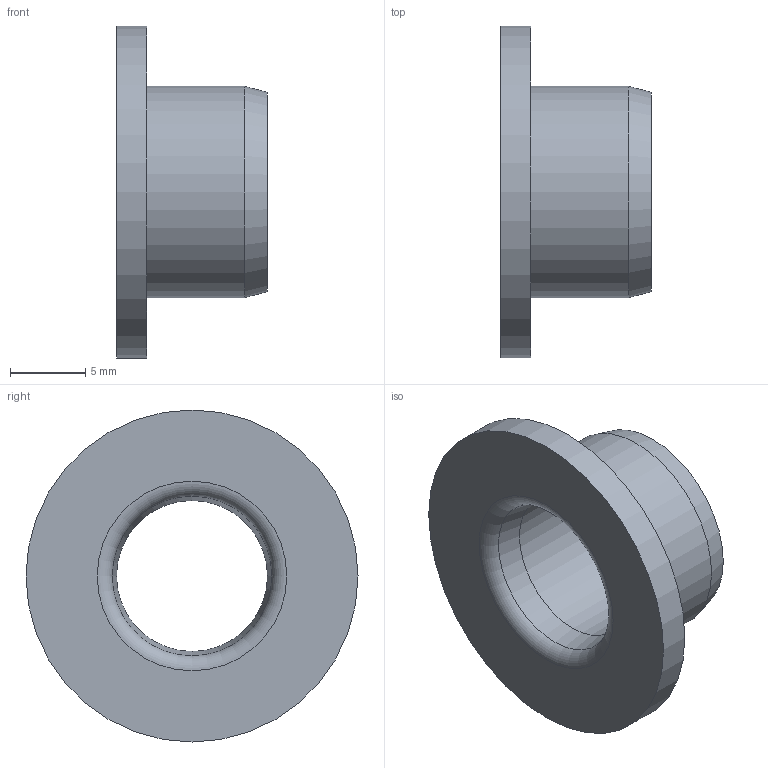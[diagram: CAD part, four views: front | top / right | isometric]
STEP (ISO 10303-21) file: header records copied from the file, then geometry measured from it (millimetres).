
FILE_DESCRIPTION(/* description */ (''),/* implementation_level */ '2;1');
FILE_NAME(/* name */ '',/* time_stamp */ '2024-05-07T18:08:20+09:00',/* author */ ('jhkim'),/* organization */ (''),/* preprocessor_version */ 'ST-DEVELOPER v20',/* originating_system */ 'Autodesk Inventor 2025',/* authorisation */ '');
FILE_SCHEMA (('AUTOMOTIVE_DESIGN { 1 0 10303 214 3 1 1 }'));
Length unit declared in the file: millimetre
Products named in the file (1): 오일리스 부시
Bounding box: 10 x 22 x 22 mm (x, y, z)
Volume: 1159.5 mm3; surface area: 1356.1 mm2
Topology: 1 solids, 1 shells, 11 faces, 21 edges, 13 vertices
Faces by surface type: plane 3, cylinder 3, cone 3, torus 2
Full cylindrical faces by diameter (mm): 10 x1, 14 x1, 22 x1
Entity records: 333 total; most frequent: DIRECTION 60, CARTESIAN_POINT 46, ORIENTED_EDGE 42, AXIS2_PLACEMENT_3D 27, EDGE_CURVE 21, CIRCLE 15, EDGE_LOOP 14, VERTEX_POINT 13
